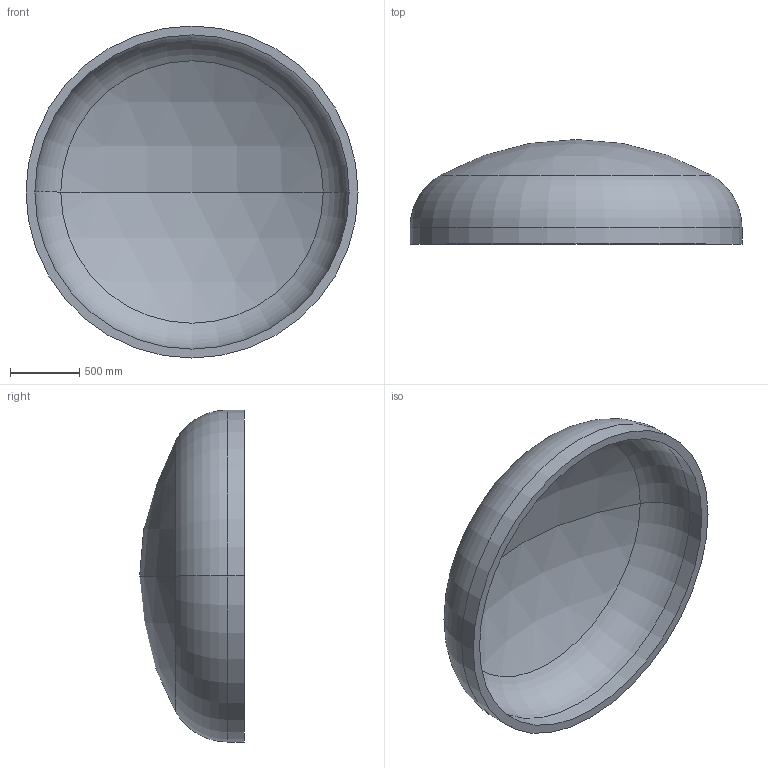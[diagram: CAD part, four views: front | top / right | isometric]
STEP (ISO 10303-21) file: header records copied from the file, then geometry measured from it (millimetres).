
FILE_DESCRIPTION (( 'STEP AP203' ), '1' );
FILE_NAME ('DIN 28013 Korbbogenform_-_Boden DIN 28013 - 2400 x 120 - I - s=64.step', '2016-07-01T15:30:41', ( '' ), ( '' ), 'SwSTEP 2.0', 'SolidWorks 2013', '' );
FILE_SCHEMA (( 'CONFIG_CONTROL_DESIGN' ));
Length unit declared in the file: millimetre
Products named in the file (1): DIN 28013 Korbbogenform_-_Boden DIN 28013 - 2400 x 120 - I - s=64
Bounding box: 2400 x 756.5 x 2400 mm (x, y, z)
Volume: 443674055.6 mm3; surface area: 14343069.2 mm2
Topology: 1 solids, 1 shells, 13 faces, 24 edges, 14 vertices
Faces by surface type: torus 4, cylinder 4, sphere 4, plane 1
Entity records: 407 total; most frequent: DIRECTION 72, CARTESIAN_POINT 52, ORIENTED_EDGE 48, AXIS2_PLACEMENT_3D 34, EDGE_CURVE 24, CIRCLE 20, VERTEX_POINT 14, EDGE_LOOP 14
